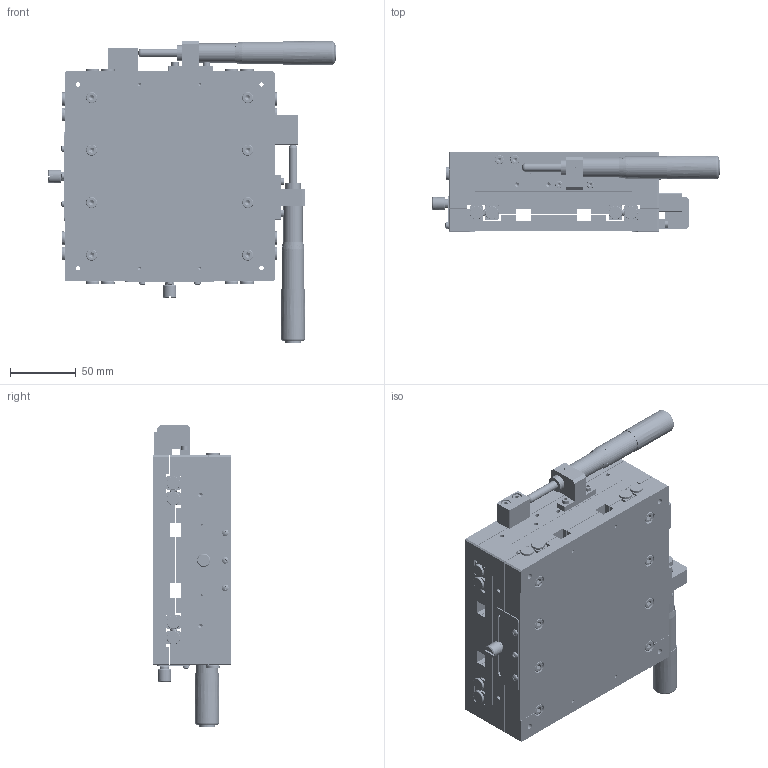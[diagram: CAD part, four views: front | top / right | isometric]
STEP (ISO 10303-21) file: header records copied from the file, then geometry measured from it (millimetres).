
FILE_DESCRIPTION (( 'STEP AP203' ), '1' );
FILE_NAME ('BPB160.STEP', '2024-07-26T03:08:45', ( 'Windows User' ), ( 'P R C' ), 'SwSTEP 2.0', 'SolidWorks 2024', '' );
FILE_SCHEMA (( 'CONFIG_CONTROL_DESIGN' ));
Products named in the file (1): BPB160
Bounding box: 219.61 x 60 x 229.81 mm (x, y, z)
Volume: 1566062.1 mm3; surface area: 461002.7 mm2
Topology: 66 solids, 66 shells, 4934 faces, 12778 edges, 8280 vertices
Faces by surface type: plane 1736, bspline 1648, cylinder 818, cone 648, torus 76, sphere 8
Full cylindrical faces by diameter (mm): 2.05 x6, 2.5 x24, 3 x6, 3.2 x6, 3.3 x104, 4 x64, 4.2 x4, 4.3 x60, 4.5 x8, 5 x22, 5.5 x20, 6.5 x4, 7 x6, 7.6 x4, 8 x64, 8.1 x2, 8.5 x18, 10 x18, 10.2 x24, 11.65 x2, 12 x6, 15.471 x2, 17 x4
Entity records: 232157 total; most frequent: CARTESIAN_POINT 131935, ORIENTED_EDGE 23224, DIRECTION 14006, EDGE_CURVE 11612, VERTEX_POINT 8056, EDGE_LOOP 6728, B_SPLINE_CURVE_WITH_KNOTS 5536, FACE_OUTER_BOUND 5494
